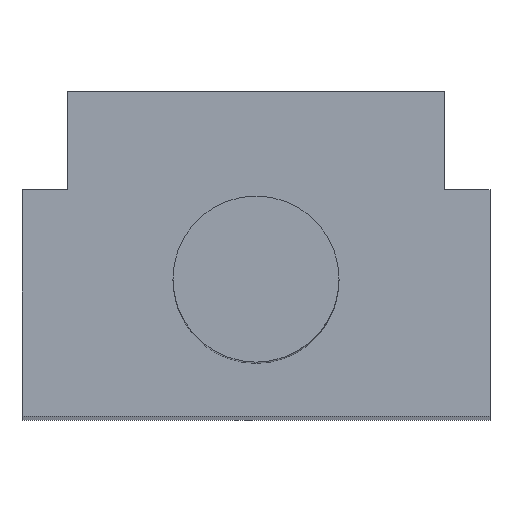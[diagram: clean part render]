
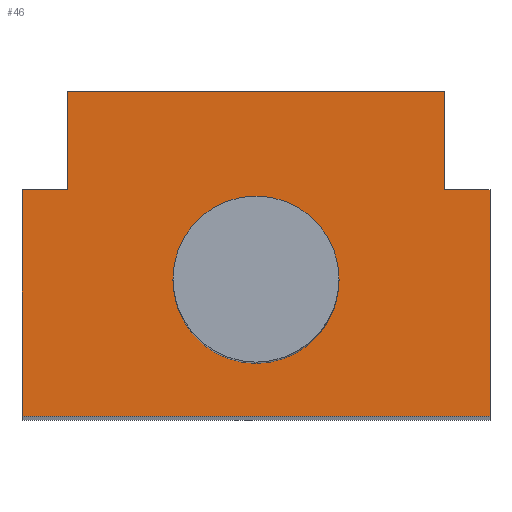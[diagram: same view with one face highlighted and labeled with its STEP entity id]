
A CAD part, top view. The second image highlights one B-rep face of the part: STEP entity #46.
In plain terms, the highlighted planar face has unit normal (0, 0, 1).
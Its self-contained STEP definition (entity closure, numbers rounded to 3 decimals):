
#46 = ADVANCED_FACE( 'NONE', ( #101, #102 ), #103, .T. );
#101 = FACE_BOUND( '', #166, .T. );
#102 = FACE_OUTER_BOUND( '', #167, .T. );
#103 = PLANE( '', #168 );
#166 = EDGE_LOOP( '', ( #239 ) );
#167 = EDGE_LOOP( '', ( #240, #241, #242, #243, #244, #245, #246, #247 ) );
#168 = AXIS2_PLACEMENT_3D( '', #248, #249, #250 );
#239 = ORIENTED_EDGE( '', *, *, #383, .F. );
#240 = ORIENTED_EDGE( '', *, *, #384, .T. );
#241 = ORIENTED_EDGE( '', *, *, #385, .T. );
#242 = ORIENTED_EDGE( '', *, *, #386, .T. );
#243 = ORIENTED_EDGE( '', *, *, #387, .T. );
#244 = ORIENTED_EDGE( '', *, *, #388, .T. );
#245 = ORIENTED_EDGE( '', *, *, #389, .T. );
#246 = ORIENTED_EDGE( '', *, *, #390, .T. );
#247 = ORIENTED_EDGE( '', *, *, #391, .T. );
#248 = CARTESIAN_POINT( '', ( -3.1, 0., 31. ) );
#249 = DIRECTION( '', ( 0., 0., 1. ) );
#250 = DIRECTION( '', ( 1., 0., 0. ) );
#383 = EDGE_CURVE( '', #452, #452, #453, .T. );
#384 = EDGE_CURVE( 'NONE', #454, #455, #456, .T. );
#385 = EDGE_CURVE( 'NONE', #455, #457, #458, .T. );
#386 = EDGE_CURVE( 'NONE', #457, #459, #460, .T. );
#387 = EDGE_CURVE( 'NONE', #459, #461, #462, .T. );
#388 = EDGE_CURVE( 'NONE', #461, #463, #464, .T. );
#389 = EDGE_CURVE( 'NONE', #463, #465, #466, .T. );
#390 = EDGE_CURVE( 'NONE', #465, #467, #468, .T. );
#391 = EDGE_CURVE( 'NONE', #467, #454, #469, .T. );
#452 = VERTEX_POINT( '', #546 );
#453 = CIRCLE( '', #547, 1.1 );
#454 = VERTEX_POINT( 'NONE', #548 );
#455 = VERTEX_POINT( 'NONE', #549 );
#456 = LINE( '', #550, #551 );
#457 = VERTEX_POINT( 'NONE', #552 );
#458 = LINE( '', #553, #554 );
#459 = VERTEX_POINT( 'NONE', #555 );
#460 = LINE( '', #556, #557 );
#461 = VERTEX_POINT( 'NONE', #558 );
#462 = LINE( '', #559, #560 );
#463 = VERTEX_POINT( 'NONE', #561 );
#464 = LINE( '', #562, #563 );
#465 = VERTEX_POINT( 'NONE', #564 );
#466 = LINE( '', #565, #566 );
#467 = VERTEX_POINT( 'NONE', #567 );
#468 = LINE( '', #568, #569 );
#469 = LINE( '', #570, #571 );
#546 = CARTESIAN_POINT( '', ( 1.1, 1.8, 31. ) );
#547 = AXIS2_PLACEMENT_3D( '', #641, #642, #643 );
#548 = CARTESIAN_POINT( '', ( -3.1, 3., 31. ) );
#549 = CARTESIAN_POINT( '', ( -3.1, 0., 31. ) );
#550 = CARTESIAN_POINT( '', ( -3.1, 3., 31. ) );
#551 = VECTOR( '', #644, 1000. );
#552 = CARTESIAN_POINT( '', ( 3.1, 0., 31. ) );
#553 = CARTESIAN_POINT( '', ( -3.1, 0., 31. ) );
#554 = VECTOR( '', #645, 1000. );
#555 = CARTESIAN_POINT( '', ( 3.1, 3., 31. ) );
#556 = CARTESIAN_POINT( '', ( 3.1, 3., 31. ) );
#557 = VECTOR( '', #646, 1000. );
#558 = CARTESIAN_POINT( '', ( 2.5, 3., 31. ) );
#559 = CARTESIAN_POINT( '', ( 2.5, 3., 31. ) );
#560 = VECTOR( '', #647, 1000. );
#561 = CARTESIAN_POINT( '', ( 2.5, 4.3, 31. ) );
#562 = CARTESIAN_POINT( '', ( 2.5, 4.3, 31. ) );
#563 = VECTOR( '', #648, 1000. );
#564 = CARTESIAN_POINT( '', ( -2.5, 4.3, 31. ) );
#565 = CARTESIAN_POINT( '', ( -2.5, 4.3, 31. ) );
#566 = VECTOR( '', #649, 1000. );
#567 = CARTESIAN_POINT( '', ( -2.5, 3., 31. ) );
#568 = CARTESIAN_POINT( '', ( -2.5, 4.3, 31. ) );
#569 = VECTOR( '', #650, 1000. );
#570 = CARTESIAN_POINT( '', ( -3.1, 3., 31. ) );
#571 = VECTOR( '', #651, 1000. );
#641 = CARTESIAN_POINT( '', ( 0., 1.8, 31. ) );
#642 = DIRECTION( '', ( 0., 0., 1. ) );
#643 = DIRECTION( '', ( 1., 0., 0. ) );
#644 = DIRECTION( '', ( 0., -1., 0. ) );
#645 = DIRECTION( '', ( 1., 0., 0. ) );
#646 = DIRECTION( '', ( 0., 1., 0. ) );
#647 = DIRECTION( '', ( -1., 0., 0. ) );
#648 = DIRECTION( '', ( 0., 1., 0. ) );
#649 = DIRECTION( '', ( -1., 0., 0. ) );
#650 = DIRECTION( '', ( 0., -1., 0. ) );
#651 = DIRECTION( '', ( -1., 0., 0. ) );
